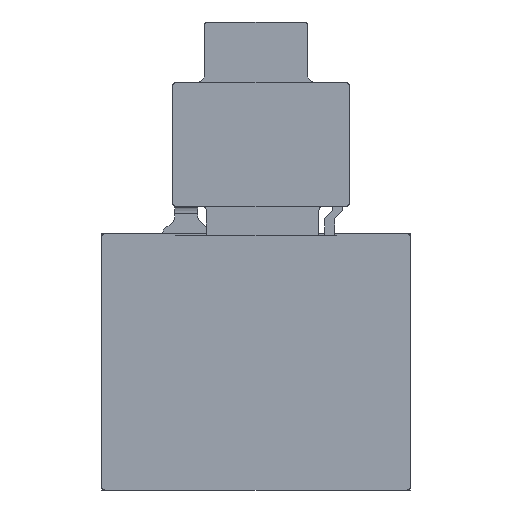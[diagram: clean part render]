
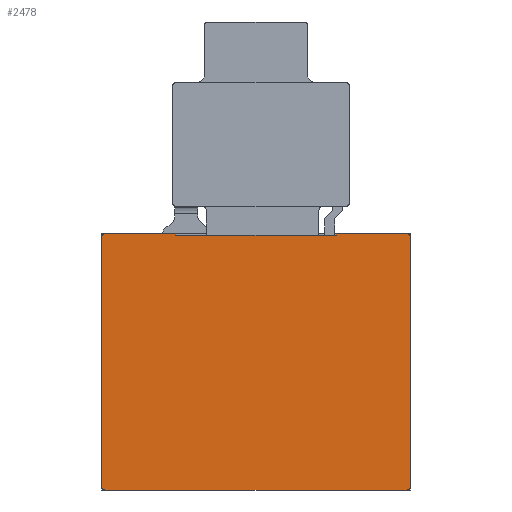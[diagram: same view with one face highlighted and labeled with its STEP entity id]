
A CAD part, front view. The second image highlights one B-rep face of the part: STEP entity #2478.
In plain terms, the highlighted planar face has unit normal (0, -1, 0).
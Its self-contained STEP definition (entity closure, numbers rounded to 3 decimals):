
#786=DIRECTION('',(1.,0.,0.));
#787=VECTOR('',#786,17.72);
#788=CARTESIAN_POINT('',(20.,-2.26,34.12));
#789=LINE('',#788,#787);
#790=CARTESIAN_POINT('',(37.72,-2.26,33.42));
#791=DIRECTION('',(0.,1.,0.));
#792=DIRECTION('',(0.,0.,1.));
#793=AXIS2_PLACEMENT_3D('',#790,#791,#792);
#795=DIRECTION('',(0.,0.,-1.));
#796=VECTOR('',#795,62.44);
#797=CARTESIAN_POINT('',(38.42,-2.26,33.42));
#798=LINE('',#797,#796);
#799=CARTESIAN_POINT('',(37.72,-2.26,-29.02));
#800=DIRECTION('',(0.,1.,0.));
#801=DIRECTION('',(1.,0.,0.));
#802=AXIS2_PLACEMENT_3D('',#799,#800,#801);
#804=DIRECTION('',(-1.,0.,0.));
#805=VECTOR('',#804,75.44);
#806=CARTESIAN_POINT('',(37.72,-2.26,-29.72));
#807=LINE('',#806,#805);
#808=CARTESIAN_POINT('',(-37.72,-2.26,-29.02));
#809=DIRECTION('',(0.,1.,0.));
#810=DIRECTION('',(0.,0.,-1.));
#811=AXIS2_PLACEMENT_3D('',#808,#809,#810);
#813=DIRECTION('',(0.,0.,1.));
#814=VECTOR('',#813,62.44);
#815=CARTESIAN_POINT('',(-38.42,-2.26,-29.02));
#816=LINE('',#815,#814);
#817=CARTESIAN_POINT('',(-37.72,-2.26,33.42));
#818=DIRECTION('',(0.,1.,0.));
#819=DIRECTION('',(-1.,0.,0.));
#820=AXIS2_PLACEMENT_3D('',#817,#818,#819);
#822=DIRECTION('',(1.,0.,0.));
#823=VECTOR('',#822,17.72);
#824=CARTESIAN_POINT('',(-37.72,-2.26,34.12));
#825=LINE('',#824,#823);
#826=DIRECTION('',(0.,0.,-1.));
#827=VECTOR('',#826,0.4);
#828=CARTESIAN_POINT('',(-20.,-2.26,34.12));
#829=LINE('',#828,#827);
#830=DIRECTION('',(1.,0.,0.));
#831=VECTOR('',#830,40.);
#832=CARTESIAN_POINT('',(-20.,-2.26,33.72));
#833=LINE('',#832,#831);
#834=DIRECTION('',(0.,0.,1.));
#835=VECTOR('',#834,0.4);
#836=CARTESIAN_POINT('',(20.,-2.26,33.72));
#837=LINE('',#836,#835);
#1037=CARTESIAN_POINT('',(20.,-2.26,34.12));
#1038=CARTESIAN_POINT('',(37.72,-2.26,34.12));
#1039=VERTEX_POINT('',#1037);
#1040=VERTEX_POINT('',#1038);
#1041=CARTESIAN_POINT('',(38.42,-2.26,33.42));
#1042=VERTEX_POINT('',#1041);
#1043=CARTESIAN_POINT('',(38.42,-2.26,-29.02));
#1044=VERTEX_POINT('',#1043);
#1045=CARTESIAN_POINT('',(37.72,-2.26,-29.72));
#1046=VERTEX_POINT('',#1045);
#1047=CARTESIAN_POINT('',(-37.72,-2.26,-29.72));
#1048=VERTEX_POINT('',#1047);
#1049=CARTESIAN_POINT('',(-38.42,-2.26,-29.02));
#1050=VERTEX_POINT('',#1049);
#1051=CARTESIAN_POINT('',(-38.42,-2.26,33.42));
#1052=VERTEX_POINT('',#1051);
#1053=CARTESIAN_POINT('',(-37.72,-2.26,34.12));
#1054=VERTEX_POINT('',#1053);
#1055=CARTESIAN_POINT('',(-20.,-2.26,34.12));
#1056=VERTEX_POINT('',#1055);
#1057=CARTESIAN_POINT('',(-20.,-2.26,33.72));
#1058=VERTEX_POINT('',#1057);
#1059=CARTESIAN_POINT('',(20.,-2.26,33.72));
#1060=VERTEX_POINT('',#1059);
#2454=CARTESIAN_POINT('',(0.,-2.26,0.));
#2455=DIRECTION('',(0.,1.,0.));
#2456=DIRECTION('',(1.,0.,0.));
#2457=AXIS2_PLACEMENT_3D('',#2454,#2455,#2456);
#2458=PLANE('',#2457);
#2459=ORIENTED_EDGE('',*,*,#2088,.T.);
#2460=ORIENTED_EDGE('',*,*,#2040,.T.);
#2461=ORIENTED_EDGE('',*,*,#2063,.T.);
#2463=ORIENTED_EDGE('',*,*,#2462,.T.);
#2465=ORIENTED_EDGE('',*,*,#2464,.T.);
#2467=ORIENTED_EDGE('',*,*,#2466,.T.);
#2469=ORIENTED_EDGE('',*,*,#2468,.T.);
#2471=ORIENTED_EDGE('',*,*,#2470,.T.);
#2472=ORIENTED_EDGE('',*,*,#2076,.T.);
#2473=ORIENTED_EDGE('',*,*,#2448,.T.);
#2474=ORIENTED_EDGE('',*,*,#1756,.T.);
#2475=ORIENTED_EDGE('',*,*,#1956,.T.);
#2476=EDGE_LOOP('',(#2459,#2460,#2461,#2463,#2465,#2467,#2469,#2471,#2472,#2473,
#2474,#2475));
#2477=FACE_OUTER_BOUND('',#2476,.F.);
#794=CIRCLE('',#793,0.7);
#803=CIRCLE('',#802,0.7);
#812=CIRCLE('',#811,0.7);
#821=CIRCLE('',#820,0.7);
#1756=EDGE_CURVE('',#1058,#1060,#833,.T.);
#1956=EDGE_CURVE('',#1060,#1039,#837,.T.);
#2040=EDGE_CURVE('',#1040,#1042,#794,.T.);
#2063=EDGE_CURVE('',#1042,#1044,#798,.T.);
#2076=EDGE_CURVE('',#1054,#1056,#825,.T.);
#2088=EDGE_CURVE('',#1039,#1040,#789,.T.);
#2448=EDGE_CURVE('',#1056,#1058,#829,.T.);
#2462=EDGE_CURVE('',#1044,#1046,#803,.T.);
#2464=EDGE_CURVE('',#1046,#1048,#807,.T.);
#2466=EDGE_CURVE('',#1048,#1050,#812,.T.);
#2468=EDGE_CURVE('',#1050,#1052,#816,.T.);
#2470=EDGE_CURVE('',#1052,#1054,#821,.T.);
#2478=ADVANCED_FACE('',(#2477),#2458,.F.);
